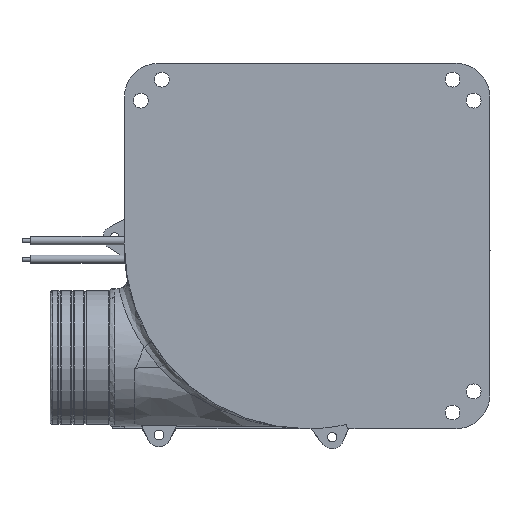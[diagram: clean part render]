
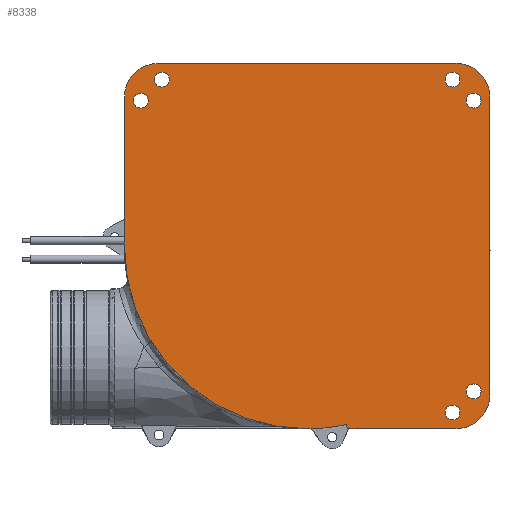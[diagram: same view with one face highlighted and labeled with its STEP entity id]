
A CAD part, front view. The second image highlights one B-rep face of the part: STEP entity #8338.
In plain terms, the highlighted planar face has unit normal (0, -1, 0).
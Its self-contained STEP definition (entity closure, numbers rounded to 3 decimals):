
#2031=DIRECTION('',(0.,0.,1.));
#2032=VECTOR('',#2031,35.);
#2033=CARTESIAN_POINT('',(-43.,-33.,0.));
#2034=LINE('',#2033,#2032);
#2035=CARTESIAN_POINT('',(-35.,-33.,35.));
#2036=DIRECTION('',(0.,-1.,0.));
#2037=DIRECTION('',(0.,0.,1.));
#2038=AXIS2_PLACEMENT_3D('',#2035,#2036,#2037);
#2040=CARTESIAN_POINT('',(35.,-33.,35.));
#2041=DIRECTION('',(0.,-1.,0.));
#2042=DIRECTION('',(1.,0.,0.));
#2043=AXIS2_PLACEMENT_3D('',#2040,#2041,#2042);
#2045=CARTESIAN_POINT('',(35.,-33.,-35.));
#2046=DIRECTION('',(0.,-1.,0.));
#2047=DIRECTION('',(0.,0.,-1.));
#2048=AXIS2_PLACEMENT_3D('',#2045,#2046,#2047);
#2050=CARTESIAN_POINT('',(11.67,-33.,-41.5));
#2051=DIRECTION('',(0.,-1.,0.));
#2052=DIRECTION('',(-0.099,0.,-0.995));
#2053=AXIS2_PLACEMENT_3D('',#2050,#2051,#2052);
#2055=CARTESIAN_POINT('',(11.522,-33.,-42.996));
#2056=CARTESIAN_POINT('',(10.836,-33.,-42.996));
#2057=CARTESIAN_POINT('',(10.149,-33.,-43.));
#2058=CARTESIAN_POINT('',(9.463,-33.,-43.));
#2060=DIRECTION('',(-0.237,0.,0.971));
#2061=VECTOR('',#2060,1.029);
#2062=CARTESIAN_POINT('',(9.463,-33.,-43.));
#2063=LINE('',#2062,#2061);
#2064=CARTESIAN_POINT('',(0.,-33.,0.));
#2065=DIRECTION('',(0.,-1.,0.));
#2066=DIRECTION('',(0.021,0.,-1.));
#2067=AXIS2_PLACEMENT_3D('',#2064,#2065,#2066);
#2069=CARTESIAN_POINT('',(0.913,-33.,-42.995));
#2070=CARTESIAN_POINT('',(0.61,-33.,-42.995));
#2071=CARTESIAN_POINT('',(0.304,-33.,-43.));
#2072=CARTESIAN_POINT('',(0.,-33.,-43.));
#2074=CARTESIAN_POINT('',(0.,-33.,0.));
#2075=DIRECTION('',(0.,1.,0.));
#2076=DIRECTION('',(0.,0.,-1.));
#2077=AXIS2_PLACEMENT_3D('',#2074,#2075,#2076);
#2079=CARTESIAN_POINT('',(39.161,-33.,34.211));
#2080=DIRECTION('',(0.,1.,0.));
#2081=DIRECTION('',(0.,0.,-1.));
#2082=AXIS2_PLACEMENT_3D('',#2079,#2080,#2081);
#2084=CARTESIAN_POINT('',(39.161,-33.,34.211));
#2085=DIRECTION('',(0.,1.,0.));
#2086=DIRECTION('',(0.,0.,1.));
#2087=AXIS2_PLACEMENT_3D('',#2084,#2085,#2086);
#2089=CARTESIAN_POINT('',(34.211,-33.,39.161));
#2090=DIRECTION('',(0.,1.,0.));
#2091=DIRECTION('',(0.,0.,-1.));
#2092=AXIS2_PLACEMENT_3D('',#2089,#2090,#2091);
#2094=CARTESIAN_POINT('',(34.211,-33.,39.161));
#2095=DIRECTION('',(0.,1.,0.));
#2096=DIRECTION('',(0.,0.,1.));
#2097=AXIS2_PLACEMENT_3D('',#2094,#2095,#2096);
#2099=CARTESIAN_POINT('',(34.211,-33.,-39.161));
#2100=DIRECTION('',(0.,1.,0.));
#2101=DIRECTION('',(-1.,0.,0.));
#2102=AXIS2_PLACEMENT_3D('',#2099,#2100,#2101);
#2104=CARTESIAN_POINT('',(34.211,-33.,-39.161));
#2105=DIRECTION('',(0.,1.,0.));
#2106=DIRECTION('',(1.,0.,0.));
#2107=AXIS2_PLACEMENT_3D('',#2104,#2105,#2106);
#2109=CARTESIAN_POINT('',(39.161,-33.,-34.211));
#2110=DIRECTION('',(0.,1.,0.));
#2111=DIRECTION('',(-1.,0.,0.));
#2112=AXIS2_PLACEMENT_3D('',#2109,#2110,#2111);
#2114=CARTESIAN_POINT('',(39.161,-33.,-34.211));
#2115=DIRECTION('',(0.,1.,0.));
#2116=DIRECTION('',(1.,0.,0.));
#2117=AXIS2_PLACEMENT_3D('',#2114,#2115,#2116);
#2119=CARTESIAN_POINT('',(-34.211,-33.,39.161));
#2120=DIRECTION('',(0.,1.,0.));
#2121=DIRECTION('',(1.,0.,0.));
#2122=AXIS2_PLACEMENT_3D('',#2119,#2120,#2121);
#2124=CARTESIAN_POINT('',(-34.211,-33.,39.161));
#2125=DIRECTION('',(0.,1.,0.));
#2126=DIRECTION('',(-1.,0.,0.));
#2127=AXIS2_PLACEMENT_3D('',#2124,#2125,#2126);
#2129=CARTESIAN_POINT('',(-39.161,-33.,34.211));
#2130=DIRECTION('',(0.,1.,0.));
#2131=DIRECTION('',(1.,0.,0.));
#2132=AXIS2_PLACEMENT_3D('',#2129,#2130,#2131);
#2134=CARTESIAN_POINT('',(-39.161,-33.,34.211));
#2135=DIRECTION('',(0.,1.,0.));
#2136=DIRECTION('',(-1.,0.,0.));
#2137=AXIS2_PLACEMENT_3D('',#2134,#2135,#2136);
#2163=DIRECTION('',(-1.,0.,0.));
#2164=VECTOR('',#2163,70.);
#2165=CARTESIAN_POINT('',(35.,-33.,43.));
#2166=LINE('',#2165,#2164);
#2248=DIRECTION('',(0.,0.,1.));
#2249=VECTOR('',#2248,70.);
#2250=CARTESIAN_POINT('',(43.,-33.,-35.));
#2251=LINE('',#2250,#2249);
#2304=DIRECTION('',(1.,0.,0.));
#2305=VECTOR('',#2304,23.33);
#2306=CARTESIAN_POINT('',(11.67,-33.,-43.));
#2307=LINE('',#2306,#2305);
#4840=CARTESIAN_POINT('',(0.,-33.,-43.));
#4842=VERTEX_POINT('',#4840);
#4847=CARTESIAN_POINT('',(-35.,-33.,43.));
#4848=VERTEX_POINT('',#4847);
#4849=CARTESIAN_POINT('',(-43.,-33.,35.));
#4850=VERTEX_POINT('',#4849);
#4855=CARTESIAN_POINT('',(43.,-33.,35.));
#4856=VERTEX_POINT('',#4855);
#4857=CARTESIAN_POINT('',(35.,-33.,43.));
#4858=VERTEX_POINT('',#4857);
#4863=CARTESIAN_POINT('',(35.,-33.,-43.));
#4864=VERTEX_POINT('',#4863);
#4865=CARTESIAN_POINT('',(43.,-33.,-35.));
#4866=VERTEX_POINT('',#4865);
#4892=VERTEX_POINT('',#2069);
#4893=CARTESIAN_POINT('',(11.67,-33.,-43.));
#4895=VERTEX_POINT('',#4893);
#4914=CARTESIAN_POINT('',(9.219,-33.,-42.));
#4916=VERTEX_POINT('',#4914);
#4965=CARTESIAN_POINT('',(9.463,-33.,-43.));
#4967=VERTEX_POINT('',#4965);
#5042=CARTESIAN_POINT('',(-37.411,-33.,34.211));
#5043=CARTESIAN_POINT('',(-40.911,-33.,34.211));
#5044=VERTEX_POINT('',#5042);
#5045=VERTEX_POINT('',#5043);
#5046=CARTESIAN_POINT('',(-32.461,-33.,39.161));
#5047=CARTESIAN_POINT('',(-35.961,-33.,39.161));
#5048=VERTEX_POINT('',#5046);
#5049=VERTEX_POINT('',#5047);
#5058=CARTESIAN_POINT('',(37.411,-33.,-34.211));
#5059=CARTESIAN_POINT('',(40.911,-33.,-34.211));
#5060=VERTEX_POINT('',#5058);
#5061=VERTEX_POINT('',#5059);
#5062=CARTESIAN_POINT('',(32.461,-33.,-39.161));
#5063=CARTESIAN_POINT('',(35.961,-33.,-39.161));
#5064=VERTEX_POINT('',#5062);
#5065=VERTEX_POINT('',#5063);
#5074=CARTESIAN_POINT('',(34.211,-33.,37.411));
#5075=CARTESIAN_POINT('',(34.211,-33.,40.911));
#5076=VERTEX_POINT('',#5074);
#5077=VERTEX_POINT('',#5075);
#5078=CARTESIAN_POINT('',(39.161,-33.,32.461));
#5079=CARTESIAN_POINT('',(39.161,-33.,35.961));
#5080=VERTEX_POINT('',#5078);
#5081=VERTEX_POINT('',#5079);
#5090=VERTEX_POINT('',#2055);
#5364=CARTESIAN_POINT('',(-43.,-33.,0.));
#5365=VERTEX_POINT('',#5364);
#8273=CARTESIAN_POINT('',(0.,-33.,0.));
#8274=DIRECTION('',(0.,-1.,0.));
#8275=DIRECTION('',(0.,0.,-1.));
#8276=AXIS2_PLACEMENT_3D('',#8273,#8274,#8275);
#8277=PLANE('',#8276);
#8278=ORIENTED_EDGE('',*,*,#6068,.T.);
#8280=ORIENTED_EDGE('',*,*,#8279,.F.);
#8282=ORIENTED_EDGE('',*,*,#8281,.F.);
#8284=ORIENTED_EDGE('',*,*,#8283,.F.);
#8286=ORIENTED_EDGE('',*,*,#8285,.F.);
#8288=ORIENTED_EDGE('',*,*,#8287,.F.);
#8290=ORIENTED_EDGE('',*,*,#8289,.F.);
#8292=ORIENTED_EDGE('',*,*,#8291,.F.);
#8294=ORIENTED_EDGE('',*,*,#8293,.T.);
#8296=ORIENTED_EDGE('',*,*,#8295,.T.);
#8297=ORIENTED_EDGE('',*,*,#7336,.F.);
#8299=ORIENTED_EDGE('',*,*,#8298,.T.);
#8300=ORIENTED_EDGE('',*,*,#7328,.T.);
#8301=EDGE_LOOP('',(#8278,#8280,#8282,#8284,#8286,#8288,#8290,#8292,#8294,#8296,
#8297,#8299,#8300));
#8302=FACE_OUTER_BOUND('',#8301,.F.);
#8304=ORIENTED_EDGE('',*,*,#8303,.F.);
#8306=ORIENTED_EDGE('',*,*,#8305,.F.);
#8307=EDGE_LOOP('',(#8304,#8306));
#8308=FACE_BOUND('',#8307,.F.);
#8310=ORIENTED_EDGE('',*,*,#8309,.F.);
#8312=ORIENTED_EDGE('',*,*,#8311,.F.);
#8313=EDGE_LOOP('',(#8310,#8312));
#8314=FACE_BOUND('',#8313,.F.);
#8316=ORIENTED_EDGE('',*,*,#8315,.F.);
#8318=ORIENTED_EDGE('',*,*,#8317,.F.);
#8319=EDGE_LOOP('',(#8316,#8318));
#8320=FACE_BOUND('',#8319,.F.);
#8322=ORIENTED_EDGE('',*,*,#8321,.F.);
#8324=ORIENTED_EDGE('',*,*,#8323,.F.);
#8325=EDGE_LOOP('',(#8322,#8324));
#8326=FACE_BOUND('',#8325,.F.);
#8328=ORIENTED_EDGE('',*,*,#8327,.F.);
#8330=ORIENTED_EDGE('',*,*,#8329,.F.);
#8331=EDGE_LOOP('',(#8328,#8330));
#8332=FACE_BOUND('',#8331,.F.);
#8333=ORIENTED_EDGE('',*,*,#8263,.F.);
#8335=ORIENTED_EDGE('',*,*,#8334,.F.);
#8336=EDGE_LOOP('',(#8333,#8335));
#8337=FACE_BOUND('',#8336,.F.);
#8338=ADVANCED_FACE('',(#8302,#8308,#8314,#8320,#8326,#8332,#8337),#8277,.T.);
#2039=CIRCLE('',#2038,8.);
#2044=CIRCLE('',#2043,8.);
#2049=CIRCLE('',#2048,8.);
#2054=CIRCLE('',#2053,1.5);
#2059=B_SPLINE_CURVE_WITH_KNOTS('',3,(#2055,#2056,#2057,#2058),.UNSPECIFIED.,
.F.,.F.,(4,4),(0.,1.),.UNSPECIFIED.);
#2068=CIRCLE('',#2067,43.);
#2073=B_SPLINE_CURVE_WITH_KNOTS('',3,(#2069,#2070,#2071,#2072),.UNSPECIFIED.,
.F.,.F.,(4,4),(0.,1.),.UNSPECIFIED.);
#2078=CIRCLE('',#2077,43.);
#2083=CIRCLE('',#2082,1.75);
#2088=CIRCLE('',#2087,1.75);
#2093=CIRCLE('',#2092,1.75);
#2098=CIRCLE('',#2097,1.75);
#2103=CIRCLE('',#2102,1.75);
#2108=CIRCLE('',#2107,1.75);
#2113=CIRCLE('',#2112,1.75);
#2118=CIRCLE('',#2117,1.75);
#2123=CIRCLE('',#2122,1.75);
#2128=CIRCLE('',#2127,1.75);
#2133=CIRCLE('',#2132,1.75);
#2138=CIRCLE('',#2137,1.75);
#6068=EDGE_CURVE('',#5365,#4850,#2034,.T.);
#7328=EDGE_CURVE('',#4842,#5365,#2078,.T.);
#7336=EDGE_CURVE('',#4892,#4916,#2068,.T.);
#8263=EDGE_CURVE('',#5044,#5045,#2133,.T.);
#8279=EDGE_CURVE('',#4848,#4850,#2039,.T.);
#8281=EDGE_CURVE('',#4858,#4848,#2166,.T.);
#8283=EDGE_CURVE('',#4856,#4858,#2044,.T.);
#8285=EDGE_CURVE('',#4866,#4856,#2251,.T.);
#8287=EDGE_CURVE('',#4864,#4866,#2049,.T.);
#8289=EDGE_CURVE('',#4895,#4864,#2307,.T.);
#8291=EDGE_CURVE('',#5090,#4895,#2054,.T.);
#8293=EDGE_CURVE('',#5090,#4967,#2059,.T.);
#8295=EDGE_CURVE('',#4967,#4916,#2063,.T.);
#8298=EDGE_CURVE('',#4892,#4842,#2073,.T.);
#8303=EDGE_CURVE('',#5080,#5081,#2083,.T.);
#8305=EDGE_CURVE('',#5081,#5080,#2088,.T.);
#8309=EDGE_CURVE('',#5076,#5077,#2093,.T.);
#8311=EDGE_CURVE('',#5077,#5076,#2098,.T.);
#8315=EDGE_CURVE('',#5064,#5065,#2103,.T.);
#8317=EDGE_CURVE('',#5065,#5064,#2108,.T.);
#8321=EDGE_CURVE('',#5060,#5061,#2113,.T.);
#8323=EDGE_CURVE('',#5061,#5060,#2118,.T.);
#8327=EDGE_CURVE('',#5048,#5049,#2123,.T.);
#8329=EDGE_CURVE('',#5049,#5048,#2128,.T.);
#8334=EDGE_CURVE('',#5045,#5044,#2138,.T.);
